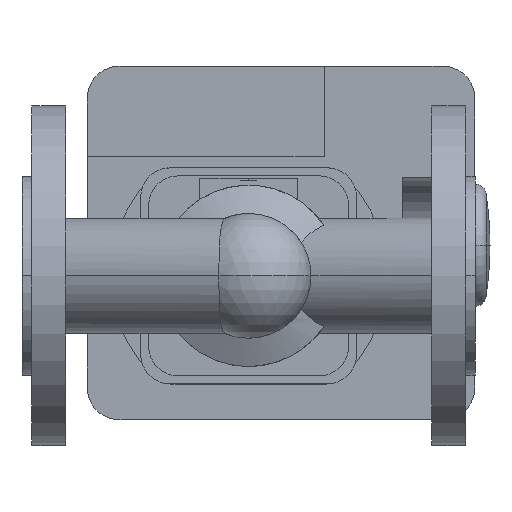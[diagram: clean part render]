
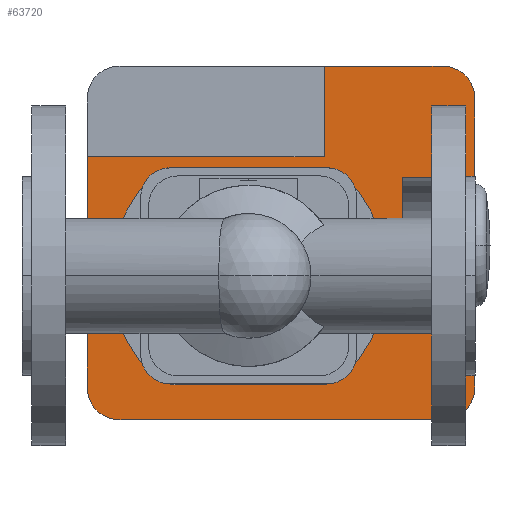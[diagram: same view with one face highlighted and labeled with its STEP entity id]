
A CAD part, front view. The second image highlights one B-rep face of the part: STEP entity #63720.
In plain terms, the highlighted planar face has unit normal (0, -1, 0).
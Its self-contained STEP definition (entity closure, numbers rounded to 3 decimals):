
#60540=CARTESIAN_POINT('',(185.8,489.,92.5));
#60550=VERTEX_POINT('',#60540);
#60580=CARTESIAN_POINT('',(42.8,489.,92.5));
#60590=DIRECTION('',(1.,0.,0.));
#60600=VECTOR('',#60590,1.);
#60610=LINE('',#60580,#60600);
#60620=CARTESIAN_POINT('',(133.3,489.,92.5));
#60630=VERTEX_POINT('',#60620);
#60640=EDGE_CURVE('',#60630,#60550,#60610,.T.);
#60990=CARTESIAN_POINT('',(28.8,489.,-49.5));
#61000=VERTEX_POINT('',#60990);
#61030=CARTESIAN_POINT('',(42.8,489.,-49.5));
#61040=DIRECTION('',(0.,1.,0.));
#61050=DIRECTION('',(0.,0.,-1.));
#61060=AXIS2_PLACEMENT_3D('',#61030,#61040,#61050);
#61070=CIRCLE('',#61060,14.);
#61080=CARTESIAN_POINT('',(42.8,489.,-63.5));
#61090=VERTEX_POINT('',#61080);
#61100=EDGE_CURVE('',#61090,#61000,#61070,.T.);
#61340=CARTESIAN_POINT('',(28.8,489.,-49.5));
#61350=DIRECTION('',(0.,0.,1.));
#61360=VECTOR('',#61350,1.);
#61370=LINE('',#61340,#61360);
#61380=CARTESIAN_POINT('',(28.8,489.,52.5));
#61390=VERTEX_POINT('',#61380);
#61400=EDGE_CURVE('',#61000,#61390,#61370,.T.);
#61760=CARTESIAN_POINT('',(100.,489.,0.));
#61770=DIRECTION('',(0.,1.,0.));
#61780=DIRECTION('',(0.,0.,1.));
#61790=AXIS2_PLACEMENT_3D('',#61760,#61770,#61780);
#61800=PLANE('',#61790);
#61810=CARTESIAN_POINT('',(167.8,489.,0.));
#61820=DIRECTION('',(0.,0.,1.));
#61830=VECTOR('',#61820,1.);
#61840=LINE('',#61810,#61830);
#61850=CARTESIAN_POINT('',(167.8,489.,-16.5));
#61860=VERTEX_POINT('',#61850);
#61870=CARTESIAN_POINT('',(167.8,489.,43.5));
#61880=VERTEX_POINT('',#61870);
#61890=EDGE_CURVE('',#61860,#61880,#61840,.T.);
#61900=ORIENTED_EDGE('',*,*,#61890,.T.);
#61910=CARTESIAN_POINT('',(149.9,489.,-16.5));
#61920=DIRECTION('',(-1.,0.,0.));
#61930=VECTOR('',#61920,1.);
#61940=LINE('',#61910,#61930);
#61950=CARTESIAN_POINT('',(199.8,489.,-16.5));
#61960=VERTEX_POINT('',#61950);
#61970=EDGE_CURVE('',#61960,#61860,#61940,.T.);
#61980=ORIENTED_EDGE('',*,*,#61970,.T.);
#61990=CARTESIAN_POINT('',(199.8,489.,78.5));
#62000=DIRECTION('',(0.,0.,-1.));
#62010=VECTOR('',#62000,1.);
#62020=LINE('',#61990,#62010);
#62030=CARTESIAN_POINT('',(199.8,489.,-49.5));
#62040=VERTEX_POINT('',#62030);
#62050=EDGE_CURVE('',#61960,#62040,#62020,.T.);
#62060=ORIENTED_EDGE('',*,*,#62050,.F.);
#62070=CARTESIAN_POINT('',(185.8,489.,-49.5));
#62080=DIRECTION('',(0.,1.,0.));
#62090=DIRECTION('',(1.,0.,0.));
#62100=AXIS2_PLACEMENT_3D('',#62070,#62080,#62090);
#62110=CIRCLE('',#62100,14.);
#62120=CARTESIAN_POINT('',(185.8,489.,-63.5));
#62130=VERTEX_POINT('',#62120);
#62140=EDGE_CURVE('',#62040,#62130,#62110,.T.);
#62150=ORIENTED_EDGE('',*,*,#62140,.F.);
#62160=CARTESIAN_POINT('',(185.8,489.,-63.5));
#62170=DIRECTION('',(-1.,0.,0.));
#62180=VECTOR('',#62170,1.);
#62190=LINE('',#62160,#62180);
#62200=EDGE_CURVE('',#62130,#61090,#62190,.T.);
#62210=ORIENTED_EDGE('',*,*,#62200,.F.);
#62220=ORIENTED_EDGE('',*,*,#61100,.F.);
#62230=ORIENTED_EDGE('',*,*,#61400,.F.);
#62240=CARTESIAN_POINT('',(63.9,489.,52.5));
#62250=DIRECTION('',(-1.,0.,0.));
#62260=VECTOR('',#62250,1.);
#62270=LINE('',#62240,#62260);
#62280=CARTESIAN_POINT('',(133.3,489.,52.5));
#62290=VERTEX_POINT('',#62280);
#62300=EDGE_CURVE('',#62290,#61390,#62270,.T.);
#62310=ORIENTED_EDGE('',*,*,#62300,.T.);
#62320=CARTESIAN_POINT('',(133.3,489.,26.25));
#62330=DIRECTION('',(0.,0.,-1.));
#62340=VECTOR('',#62330,1.);
#62350=LINE('',#62320,#62340);
#62360=EDGE_CURVE('',#60630,#62290,#62350,.T.);
#62370=ORIENTED_EDGE('',*,*,#62360,.T.);
#62380=ORIENTED_EDGE('',*,*,#60640,.F.);
#62390=CARTESIAN_POINT('',(185.8,489.,78.5));
#62400=DIRECTION('',(0.,1.,0.));
#62410=DIRECTION('',(0.,0.,1.));
#62420=AXIS2_PLACEMENT_3D('',#62390,#62400,#62410);
#62430=CIRCLE('',#62420,14.);
#62440=CARTESIAN_POINT('',(199.8,489.,78.5));
#62450=VERTEX_POINT('',#62440);
#62460=EDGE_CURVE('',#60550,#62450,#62430,.T.);
#62470=ORIENTED_EDGE('',*,*,#62460,.F.);
#62480=CARTESIAN_POINT('',(199.8,489.,78.5));
#62490=DIRECTION('',(0.,0.,-1.));
#62500=VECTOR('',#62490,1.);
#62510=LINE('',#62480,#62500);
#62520=CARTESIAN_POINT('',(199.8,489.,43.5));
#62530=VERTEX_POINT('',#62520);
#62540=EDGE_CURVE('',#62450,#62530,#62510,.T.);
#62550=ORIENTED_EDGE('',*,*,#62540,.F.);
#62560=CARTESIAN_POINT('',(149.9,489.,43.5));
#62570=DIRECTION('',(1.,0.,0.));
#62580=VECTOR('',#62570,1.);
#62590=LINE('',#62560,#62580);
#62600=EDGE_CURVE('',#61880,#62530,#62590,.T.);
#62610=ORIENTED_EDGE('',*,*,#62600,.T.);
#62620=EDGE_LOOP('',(#62610,#62550,#62470,#62380,#62370,#62310,#62230,
#62220,#62210,#62150,#62060,#61980,#61900));
#62630=FACE_OUTER_BOUND('',#62620,.T.);
#62640=CARTESIAN_POINT('',(100.,489.,0.));
#62650=DIRECTION('',(0.,1.,0.));
#62660=DIRECTION('',(0.69,0.,0.723));
#62670=AXIS2_PLACEMENT_3D('',#62640,#62650,#62660);
#62680=CIRCLE('',#62670,61.);
#62690=CARTESIAN_POINT('',(142.116,489.,44.128));
#62700=VERTEX_POINT('',#62690);
#62710=CARTESIAN_POINT('',(159.96,489.,11.216));
#62720=VERTEX_POINT('',#62710);
#62730=EDGE_CURVE('',#62700,#62720,#62680,.T.);
#62740=ORIENTED_EDGE('',*,*,#62730,.T.);
#62750=CARTESIAN_POINT('',(132.45,489.,34.));
#62760=DIRECTION('',(0.,1.,0.));
#62770=DIRECTION('',(0.,0.,1.));
#62780=AXIS2_PLACEMENT_3D('',#62750,#62760,#62770);
#62790=CIRCLE('',#62780,14.);
#62800=CARTESIAN_POINT('',(132.45,489.,48.));
#62810=VERTEX_POINT('',#62800);
#62820=EDGE_CURVE('',#62810,#62700,#62790,.T.);
#62830=ORIENTED_EDGE('',*,*,#62820,.T.);
#62840=CARTESIAN_POINT('',(83.775,489.,48.));
#62850=DIRECTION('',(1.,0.,0.));
#62860=VECTOR('',#62850,1.);
#62870=LINE('',#62840,#62860);
#62880=CARTESIAN_POINT('',(67.55,489.,48.));
#62890=VERTEX_POINT('',#62880);
#62900=EDGE_CURVE('',#62890,#62810,#62870,.T.);
#62910=ORIENTED_EDGE('',*,*,#62900,.T.);
#62920=CARTESIAN_POINT('',(67.55,489.,34.));
#62930=DIRECTION('',(0.,1.,0.));
#62940=DIRECTION('',(-0.69,0.,0.723));
#62950=AXIS2_PLACEMENT_3D('',#62920,#62930,#62940);
#62960=CIRCLE('',#62950,14.);
#62970=CARTESIAN_POINT('',(57.884,489.,44.128));
#62980=VERTEX_POINT('',#62970);
#62990=EDGE_CURVE('',#62980,#62890,#62960,.T.);
#63000=ORIENTED_EDGE('',*,*,#62990,.T.);
#63010=CARTESIAN_POINT('',(100.,489.,0.));
#63020=DIRECTION('',(0.,1.,0.));
#63030=DIRECTION('',(-0.69,0.,-0.723));
#63040=AXIS2_PLACEMENT_3D('',#63010,#63020,#63030);
#63050=CIRCLE('',#63040,61.);
#63060=CARTESIAN_POINT('',(40.04,489.,11.216));
#63070=VERTEX_POINT('',#63060);
#63080=EDGE_CURVE('',#63070,#62980,#63050,.T.);
#63090=ORIENTED_EDGE('',*,*,#63080,.T.);
#63100=CARTESIAN_POINT('',(50.,489.,0.));
#63110=DIRECTION('',(0.,1.,0.));
#63120=DIRECTION('',(0.,0.,-1.));
#63130=AXIS2_PLACEMENT_3D('',#63100,#63110,#63120);
#63140=CIRCLE('',#63130,15.);
#63150=CARTESIAN_POINT('',(40.04,489.,-11.216));
#63160=VERTEX_POINT('',#63150);
#63170=EDGE_CURVE('',#63160,#63070,#63140,.T.);
#63180=ORIENTED_EDGE('',*,*,#63170,.T.);
#63190=CARTESIAN_POINT('',(100.,489.,0.));
#63200=DIRECTION('',(0.,1.,0.));
#63210=DIRECTION('',(-0.69,0.,-0.723));
#63220=AXIS2_PLACEMENT_3D('',#63190,#63200,#63210);
#63230=CIRCLE('',#63220,61.);
#63240=CARTESIAN_POINT('',(57.884,489.,-44.128));
#63250=VERTEX_POINT('',#63240);
#63260=EDGE_CURVE('',#63250,#63160,#63230,.T.);
#63270=ORIENTED_EDGE('',*,*,#63260,.T.);
#63280=CARTESIAN_POINT('',(67.55,489.,-34.));
#63290=DIRECTION('',(0.,1.,0.));
#63300=DIRECTION('',(0.,0.,-1.));
#63310=AXIS2_PLACEMENT_3D('',#63280,#63290,#63300);
#63320=CIRCLE('',#63310,14.);
#63330=CARTESIAN_POINT('',(67.55,489.,-48.));
#63340=VERTEX_POINT('',#63330);
#63350=EDGE_CURVE('',#63340,#63250,#63320,.T.);
#63360=ORIENTED_EDGE('',*,*,#63350,.T.);
#63370=CARTESIAN_POINT('',(116.225,489.,-48.));
#63380=DIRECTION('',(-1.,0.,0.));
#63390=VECTOR('',#63380,1.);
#63400=LINE('',#63370,#63390);
#63410=CARTESIAN_POINT('',(132.45,489.,-48.));
#63420=VERTEX_POINT('',#63410);
#63430=EDGE_CURVE('',#63420,#63340,#63400,.T.);
#63440=ORIENTED_EDGE('',*,*,#63430,.T.);
#63450=CARTESIAN_POINT('',(132.45,489.,-34.));
#63460=DIRECTION('',(0.,1.,0.));
#63470=DIRECTION('',(0.69,0.,-0.723));
#63480=AXIS2_PLACEMENT_3D('',#63450,#63460,#63470);
#63490=CIRCLE('',#63480,14.);
#63500=CARTESIAN_POINT('',(142.116,489.,-44.128));
#63510=VERTEX_POINT('',#63500);
#63520=EDGE_CURVE('',#63510,#63420,#63490,.T.);
#63530=ORIENTED_EDGE('',*,*,#63520,.T.);
#63540=CARTESIAN_POINT('',(100.,489.,0.));
#63550=DIRECTION('',(0.,1.,0.));
#63560=DIRECTION('',(0.69,0.,0.723));
#63570=AXIS2_PLACEMENT_3D('',#63540,#63550,#63560);
#63580=CIRCLE('',#63570,61.);
#63590=CARTESIAN_POINT('',(159.96,489.,-11.216));
#63600=VERTEX_POINT('',#63590);
#63610=EDGE_CURVE('',#63600,#63510,#63580,.T.);
#63620=ORIENTED_EDGE('',*,*,#63610,.T.);
#63630=CARTESIAN_POINT('',(150.,489.,0.));
#63640=DIRECTION('',(0.,1.,0.));
#63650=DIRECTION('',(0.,0.,1.));
#63660=AXIS2_PLACEMENT_3D('',#63630,#63640,#63650);
#63670=CIRCLE('',#63660,15.);
#63680=EDGE_CURVE('',#62720,#63600,#63670,.T.);
#63690=ORIENTED_EDGE('',*,*,#63680,.T.);
#63700=EDGE_LOOP('',(#63690,#63620,#63530,#63440,#63360,#63270,#63180,
#63090,#63000,#62910,#62830,#62740));
#63710=FACE_BOUND('',#63700,.T.);
#63720=ADVANCED_FACE('',(#62630,#63710),#61800,.F.);
